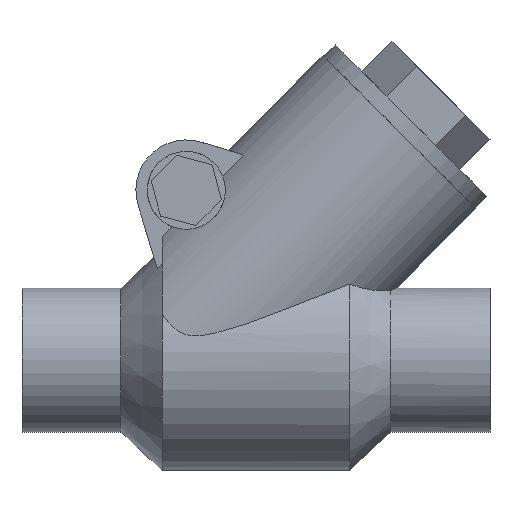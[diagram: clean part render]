
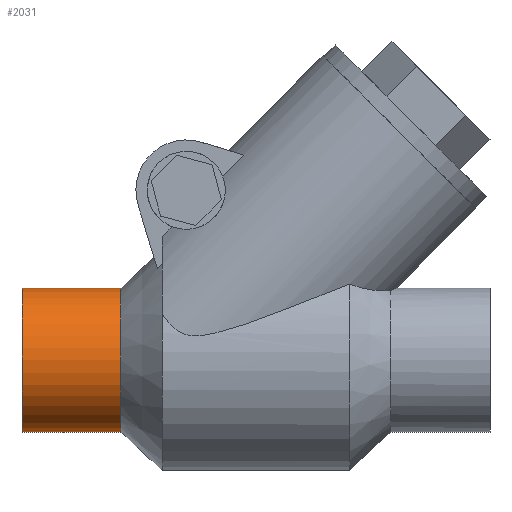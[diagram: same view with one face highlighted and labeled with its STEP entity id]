
A CAD part, front view. The second image highlights one B-rep face of the part: STEP entity #2031.
In plain terms, the highlighted cylindrical face has radius 0.4 mm (diameter 0.8 mm), a full revolution.
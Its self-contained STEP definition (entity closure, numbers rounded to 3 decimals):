
#274 = PLANE('',#275);
#275 = AXIS2_PLACEMENT_3D('',#276,#277,#278);
#276 = CARTESIAN_POINT('',(0.,0.,0.));
#277 = DIRECTION('',(-1.,0.,0.));
#278 = DIRECTION('',(0.,0.,1.));
#1606 = CONICAL_SURFACE('',#1607,0.508,0.752);
#1607 = AXIS2_PLACEMENT_3D('',#1608,#1609,#1610);
#1608 = CARTESIAN_POINT('',(0.665,0.,0.));
#1609 = DIRECTION('',(1.,0.,0.));
#1610 = DIRECTION('',(0.,0.,1.));
#1674 = EDGE_CURVE('',#1675,#1677,#1679,.T.);
#1675 = VERTEX_POINT('',#1676);
#1676 = CARTESIAN_POINT('',(0.55,0.,0.4));
#1677 = VERTEX_POINT('',#1678);
#1678 = CARTESIAN_POINT('',(0.55,-0.4,0.));
#1679 = SURFACE_CURVE('',#1680,(#1685,#1692),.PCURVE_S1.);
#1680 = CIRCLE('',#1681,0.4);
#1681 = AXIS2_PLACEMENT_3D('',#1682,#1683,#1684);
#1682 = CARTESIAN_POINT('',(0.55,0.,0.));
#1683 = DIRECTION('',(1.,0.,-0.));
#1684 = DIRECTION('',(0.,0.,1.));
#1685 = PCURVE('',#1606,#1686);
#1686 = DEFINITIONAL_REPRESENTATION('',(#1687),#1691);
#1687 = LINE('',#1688,#1689);
#1688 = CARTESIAN_POINT('',(0.,-0.115));
#1689 = VECTOR('',#1690,1.);
#1690 = DIRECTION('',(1.,0.));
#1691 = ( GEOMETRIC_REPRESENTATION_CONTEXT(2) 
PARAMETRIC_REPRESENTATION_CONTEXT() REPRESENTATION_CONTEXT('2D SPACE',''
  ) );
#1692 = PCURVE('',#1693,#1698);
#1693 = CYLINDRICAL_SURFACE('',#1694,0.4);
#1694 = AXIS2_PLACEMENT_3D('',#1695,#1696,#1697);
#1695 = CARTESIAN_POINT('',(0.,0.,0.));
#1696 = DIRECTION('',(1.,0.,0.));
#1697 = DIRECTION('',(0.,-1.,0.));
#1698 = DEFINITIONAL_REPRESENTATION('',(#1699),#1703);
#1699 = LINE('',#1700,#1701);
#1700 = CARTESIAN_POINT('',(4.712,0.55));
#1701 = VECTOR('',#1702,1.);
#1702 = DIRECTION('',(1.,0.));
#1703 = ( GEOMETRIC_REPRESENTATION_CONTEXT(2) 
PARAMETRIC_REPRESENTATION_CONTEXT() REPRESENTATION_CONTEXT('2D SPACE',''
  ) );
#1705 = EDGE_CURVE('',#1677,#1675,#1706,.T.);
#1706 = SURFACE_CURVE('',#1707,(#1712,#1719),.PCURVE_S1.);
#1707 = CIRCLE('',#1708,0.4);
#1708 = AXIS2_PLACEMENT_3D('',#1709,#1710,#1711);
#1709 = CARTESIAN_POINT('',(0.55,0.,0.));
#1710 = DIRECTION('',(1.,0.,-0.));
#1711 = DIRECTION('',(0.,0.,1.));
#1712 = PCURVE('',#1606,#1713);
#1713 = DEFINITIONAL_REPRESENTATION('',(#1714),#1718);
#1714 = LINE('',#1715,#1716);
#1715 = CARTESIAN_POINT('',(0.,-0.115));
#1716 = VECTOR('',#1717,1.);
#1717 = DIRECTION('',(1.,0.));
#1718 = ( GEOMETRIC_REPRESENTATION_CONTEXT(2) 
PARAMETRIC_REPRESENTATION_CONTEXT() REPRESENTATION_CONTEXT('2D SPACE',''
  ) );
#1719 = PCURVE('',#1693,#1720);
#1720 = DEFINITIONAL_REPRESENTATION('',(#1721),#1725);
#1721 = LINE('',#1722,#1723);
#1722 = CARTESIAN_POINT('',(-1.571,0.55));
#1723 = VECTOR('',#1724,1.);
#1724 = DIRECTION('',(1.,0.));
#1725 = ( GEOMETRIC_REPRESENTATION_CONTEXT(2) 
PARAMETRIC_REPRESENTATION_CONTEXT() REPRESENTATION_CONTEXT('2D SPACE',''
  ) );
#2008 = EDGE_CURVE('',#2009,#2009,#2011,.T.);
#2009 = VERTEX_POINT('',#2010);
#2010 = CARTESIAN_POINT('',(0.,-0.4,0.));
#2011 = SURFACE_CURVE('',#2012,(#2017,#2024),.PCURVE_S1.);
#2012 = CIRCLE('',#2013,0.4);
#2013 = AXIS2_PLACEMENT_3D('',#2014,#2015,#2016);
#2014 = CARTESIAN_POINT('',(0.,0.,0.));
#2015 = DIRECTION('',(-1.,0.,0.));
#2016 = DIRECTION('',(0.,-1.,0.));
#2017 = PCURVE('',#274,#2018);
#2018 = DEFINITIONAL_REPRESENTATION('',(#2019),#2023);
#2019 = CIRCLE('',#2020,0.4);
#2020 = AXIS2_PLACEMENT_2D('',#2021,#2022);
#2021 = CARTESIAN_POINT('',(0.,0.));
#2022 = DIRECTION('',(0.,-1.));
#2023 = ( GEOMETRIC_REPRESENTATION_CONTEXT(2) 
PARAMETRIC_REPRESENTATION_CONTEXT() REPRESENTATION_CONTEXT('2D SPACE',''
  ) );
#2024 = PCURVE('',#1693,#2025);
#2025 = DEFINITIONAL_REPRESENTATION('',(#2026),#2030);
#2026 = LINE('',#2027,#2028);
#2027 = CARTESIAN_POINT('',(6.283,0.));
#2028 = VECTOR('',#2029,1.);
#2029 = DIRECTION('',(-1.,0.));
#2030 = ( GEOMETRIC_REPRESENTATION_CONTEXT(2) 
PARAMETRIC_REPRESENTATION_CONTEXT() REPRESENTATION_CONTEXT('2D SPACE',''
  ) );
#2031 = ADVANCED_FACE('',(#2032),#1693,.T.);
#2032 = FACE_BOUND('',#2033,.T.);
#2033 = EDGE_LOOP('',(#2034,#2035,#2055,#2056,#2057));
#2034 = ORIENTED_EDGE('',*,*,#1705,.F.);
#2035 = ORIENTED_EDGE('',*,*,#2036,.F.);
#2036 = EDGE_CURVE('',#2009,#1677,#2037,.T.);
#2037 = SEAM_CURVE('',#2038,(#2041,#2048),.PCURVE_S1.);
#2038 = B_SPLINE_CURVE_WITH_KNOTS('',1,(#2039,#2040),.UNSPECIFIED.,.F.,
  .F.,(2,2),(0.,0.55),.PIECEWISE_BEZIER_KNOTS.);
#2039 = CARTESIAN_POINT('',(0.,-0.4,0.));
#2040 = CARTESIAN_POINT('',(0.55,-0.4,0.));
#2041 = PCURVE('',#1693,#2042);
#2042 = DEFINITIONAL_REPRESENTATION('',(#2043),#2047);
#2043 = LINE('',#2044,#2045);
#2044 = CARTESIAN_POINT('',(0.,0.));
#2045 = VECTOR('',#2046,1.);
#2046 = DIRECTION('',(0.,1.));
#2047 = ( GEOMETRIC_REPRESENTATION_CONTEXT(2) 
PARAMETRIC_REPRESENTATION_CONTEXT() REPRESENTATION_CONTEXT('2D SPACE',''
  ) );
#2048 = PCURVE('',#1693,#2049);
#2049 = DEFINITIONAL_REPRESENTATION('',(#2050),#2054);
#2050 = LINE('',#2051,#2052);
#2051 = CARTESIAN_POINT('',(6.283,0.));
#2052 = VECTOR('',#2053,1.);
#2053 = DIRECTION('',(0.,1.));
#2054 = ( GEOMETRIC_REPRESENTATION_CONTEXT(2) 
PARAMETRIC_REPRESENTATION_CONTEXT() REPRESENTATION_CONTEXT('2D SPACE',''
  ) );
#2055 = ORIENTED_EDGE('',*,*,#2008,.F.);
#2056 = ORIENTED_EDGE('',*,*,#2036,.T.);
#2057 = ORIENTED_EDGE('',*,*,#1674,.F.);
